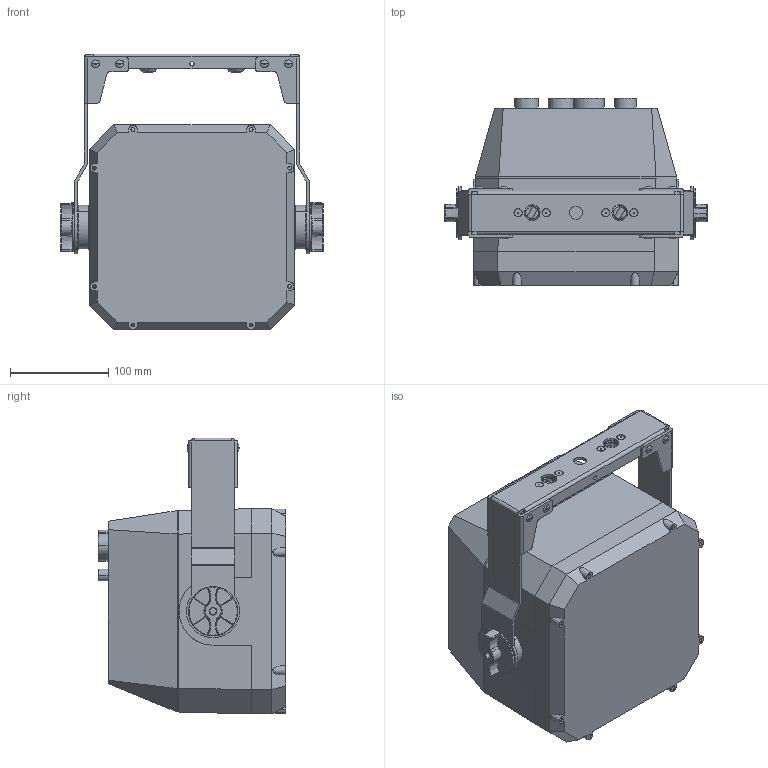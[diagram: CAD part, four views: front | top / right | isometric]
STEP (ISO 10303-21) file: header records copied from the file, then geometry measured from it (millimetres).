
FILE_DESCRIPTION((''),'2;1');
FILE_NAME('ARENALED1_WHITE_ASM','2023-04-05T14:36:48',('Michael.Spatz'),(''),'CREO PARAMETRIC BY PTC INC, 2022014','CREO PARAMETRIC BY PTC INC, 2022014','');
FILE_SCHEMA(('AUTOMOTIVE_DESIGN { 1 0 10303 214 1 1 1 1 }'));
Length unit declared in the file: millimetre
Products named in the file (16): ARENALED1_WHITE; GLP-13979_; RIVET-4_; CAMLOC-METAL-XDC_; 2-28_; RIVET-4-FLAT_; GLP-10021-2-38_; HANGER-METAL-ARENAL__ASM; GLP-13981_; KREUZSCHLITZ-SENKKOPF-M4X8_; GLP-13982_; DISC-SPRING-M8_; TOWER-SPRING-XDC_; CONNECTION-ARENAL__ASM; 112_ASM; ARENALED1_WHITE_ASM
Assembly tree (40 placements, depth 4):
  ARENALED1_WHITE_ASM
    ARENALED1_WHITE
    112_ASM
      HANGER-METAL-ARENAL__ASM
        GLP-13979_
        RIVET-4_  x8
        CAMLOC-METAL-XDC_  x2
        2-28_  x2
        RIVET-4-FLAT_  x4
        GLP-10021-2-38_  x2
      GLP-13981_  x2
      KREUZSCHLITZ-SENKKOPF-M4X8_  x8
      GLP-13982_  x2
      DISC-SPRING-M8_  x2
      TOWER-SPRING-XDC_  x2
      CONNECTION-ARENAL__ASM  x2
Bounding box: 266.2 x 190.3 x 280.3 mm (x, y, z)
Volume: 7128018.6 mm3; surface area: 329384.9 mm2
Topology: 36 solids, 56 shells, 2380 faces, 5834 edges, 3584 vertices
Faces by surface type: plane 850, cylinder 680, cone 324, bspline 238, torus 172, sphere 100, revolution 16
Entity records: 50268 total; most frequent: CARTESIAN_POINT 13606, DIRECTION 6015, ORIENTED_EDGE 5618, EDGE_CURVE 2822, AXIS2_PLACEMENT_3D 2394, PRESENTATION_STYLE_ASSIGNMENT 2177, STYLED_ITEM 2169, CURVE_STYLE 2157
